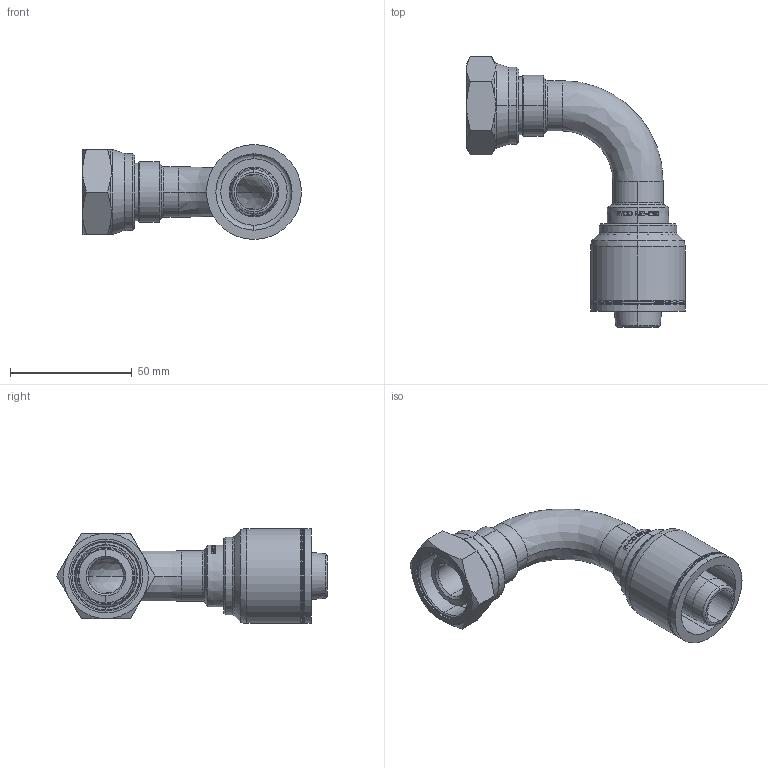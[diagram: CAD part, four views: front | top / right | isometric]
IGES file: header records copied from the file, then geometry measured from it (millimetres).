
Start section: SolidWorks IGES file using analytic representation for surfaces
Global section: file name: X:\SolidWorks\Solidworks models-to be checked\Customer Part Models\T252-1230.IGS; native system: SolidWorks 2010; preprocessor: SolidWorks 2010; author: MKitchenham; date: 120322.144928; units: millimetre
Bounding box: 89.72 x 111.01 x 38.9 mm (x, y, z)
Volume: 50392.1 mm3; surface area: 30771.3 mm2
Topology: 3 solids, 3 shells, 305 faces, 740 edges, 462 vertices
Faces by surface type: revolution 153, bspline 89, plane 63
